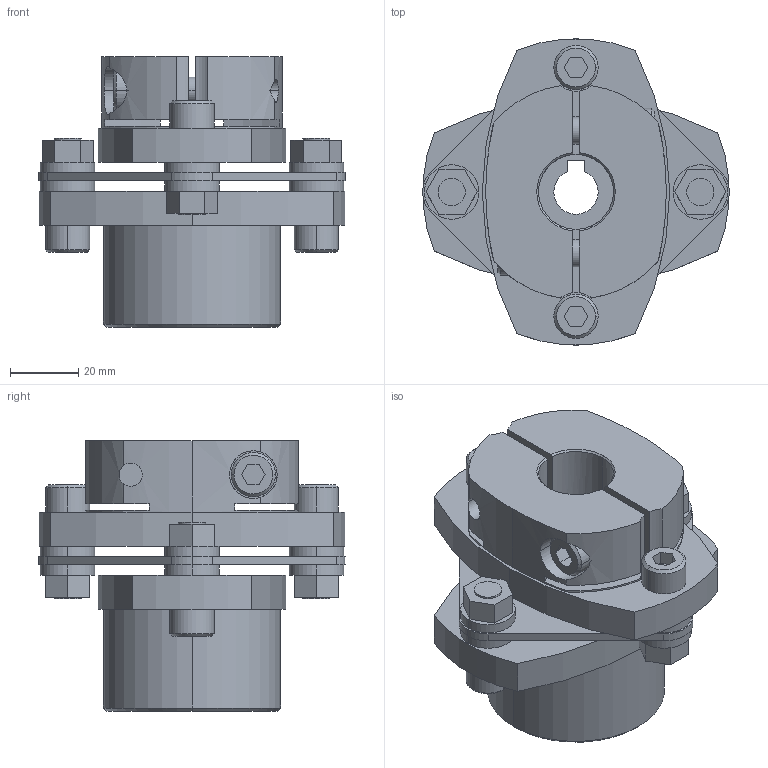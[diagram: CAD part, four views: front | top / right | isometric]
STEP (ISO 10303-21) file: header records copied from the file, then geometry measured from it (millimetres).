
FILE_DESCRIPTION((''),'2;1');
FILE_NAME('LCS-90M-16L亊22B.stp','2015-10-28T04:11:35',(''),(''),'AutoCAD STEP 2000i','AutoCAD 2000i',', , ');
FILE_SCHEMA(('CONFIG_CONTROL_DESIGN'));
Length unit declared in the file: millimetre
Products named in the file (6): LCS-90M-16L×19B; 忣兜1; LC90M-L016; LC90-B019-1; LC90-B019; LCS90-ITA
Assembly tree (5 placements, depth 2):
  LCS-90M-16L×19B
    忣兜1
    LC90M-L016
    LC90-B019-1
    LC90-B019
    LCS90-ITA
Bounding box: 90 x 89.94 x 79.5 mm (x, y, z)
Volume: 197759.3 mm3; surface area: 51025.6 mm2
Topology: 1 solids, 1 shells, 234 faces, 588 edges, 386 vertices
Faces by surface type: plane 115, cylinder 96, cone 23
Entity records: 7529 total; most frequent: CARTESIAN_POINT 1546, DIRECTION 1272, ORIENTED_EDGE 1176, EDGE_CURVE 588, AXIS2_PLACEMENT_3D 466, VERTEX_POINT 386, VECTOR 340, LINE 340
